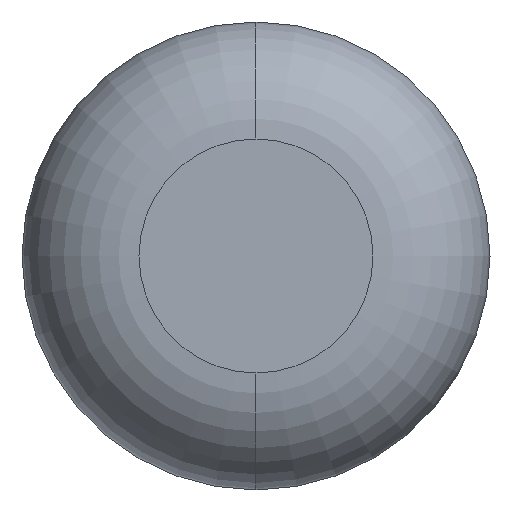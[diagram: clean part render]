
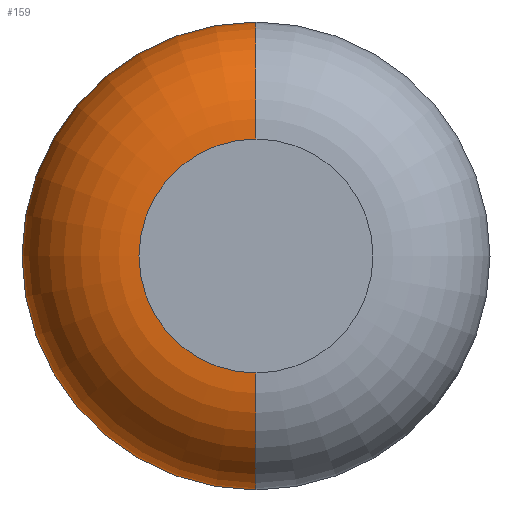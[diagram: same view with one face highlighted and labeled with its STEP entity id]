
A CAD part, left-side view. The second image highlights one B-rep face of the part: STEP entity #159.
In plain terms, the highlighted toroidal (fillet/blend) face has major radius 2 mm and minor radius 2 mm.
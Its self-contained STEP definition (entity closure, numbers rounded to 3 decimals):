
#16 = CARTESIAN_POINT ( 'NONE',  ( 0., 0., -2. ) ) ;
#22 = DIRECTION ( 'NONE',  ( 0., 0., -1. ) ) ;
#24 = FACE_OUTER_BOUND ( 'NONE', #43, .T. ) ;
#27 = EDGE_CURVE ( 'NONE', #77, #227, #196, .T. ) ;
#34 = AXIS2_PLACEMENT_3D ( 'NONE', #94, #84, #22 ) ;
#37 = DIRECTION ( 'NONE',  ( 0., 1., 0. ) ) ;
#43 = EDGE_LOOP ( 'NONE', ( #200, #186, #183, #66 ) ) ;
#56 = DIRECTION ( 'NONE',  ( 0., 0., -1. ) ) ;
#66 = ORIENTED_EDGE ( 'NONE', *, *, #27, .F. ) ;
#72 = AXIS2_PLACEMENT_3D ( 'NONE', #174, #37, #156 ) ;
#75 = CARTESIAN_POINT ( 'NONE',  ( 2., 0., 0. ) ) ;
#77 = VERTEX_POINT ( 'NONE', #16 ) ;
#82 = CIRCLE ( 'NONE', #115, 2. ) ;
#84 = DIRECTION ( 'NONE',  ( 0., -1., 0. ) ) ;
#94 = CARTESIAN_POINT ( 'NONE',  ( 2., 0., -2. ) ) ;
#103 = DIRECTION ( 'NONE',  ( -1., 0., 0. ) ) ;
#104 = CARTESIAN_POINT ( 'NONE',  ( 0., 0., 2. ) ) ;
#115 = AXIS2_PLACEMENT_3D ( 'NONE', #195, #103, #129 ) ;
#116 = AXIS2_PLACEMENT_3D ( 'NONE', #194, #141, #210 ) ;
#122 = CARTESIAN_POINT ( 'NONE',  ( 2., 0., 4. ) ) ;
#123 = AXIS2_PLACEMENT_3D ( 'NONE', #75, #192, #56 ) ;
#127 = CIRCLE ( 'NONE', #72, 2. ) ;
#128 = VERTEX_POINT ( 'NONE', #104 ) ;
#129 = DIRECTION ( 'NONE',  ( 0., 0., -1. ) ) ;
#131 = EDGE_CURVE ( 'NONE', #128, #77, #82, .T. ) ;
#141 = DIRECTION ( 'NONE',  ( 1., 0., 0. ) ) ;
#156 = DIRECTION ( 'NONE',  ( 0., 0., 1. ) ) ;
#159 = ADVANCED_FACE ( 'NONE', ( #24 ), #222, .T. ) ;
#174 = CARTESIAN_POINT ( 'NONE',  ( 2., 0., 2. ) ) ;
#178 = EDGE_CURVE ( 'NONE', #128, #218, #127, .T. ) ;
#183 = ORIENTED_EDGE ( 'NONE', *, *, #213, .F. ) ;
#186 = ORIENTED_EDGE ( 'NONE', *, *, #178, .T. ) ;
#192 = DIRECTION ( 'NONE',  ( 1., 0., 0. ) ) ;
#194 = CARTESIAN_POINT ( 'NONE',  ( 2., 0., 0. ) ) ;
#195 = CARTESIAN_POINT ( 'NONE',  ( 0., 0., 0. ) ) ;
#196 = CIRCLE ( 'NONE', #34, 2. ) ;
#200 = ORIENTED_EDGE ( 'NONE', *, *, #131, .F. ) ;
#207 = CARTESIAN_POINT ( 'NONE',  ( 2., 0., -4. ) ) ;
#210 = DIRECTION ( 'NONE',  ( 0., 0., -1. ) ) ;
#213 = EDGE_CURVE ( 'NONE', #227, #218, #216, .T. ) ;
#216 = CIRCLE ( 'NONE', #123, 4. ) ;
#218 = VERTEX_POINT ( 'NONE', #122 ) ;
#222 = TOROIDAL_SURFACE ( 'NONE', #116, 2., 2. ) ;
#227 = VERTEX_POINT ( 'NONE', #207 ) ;
